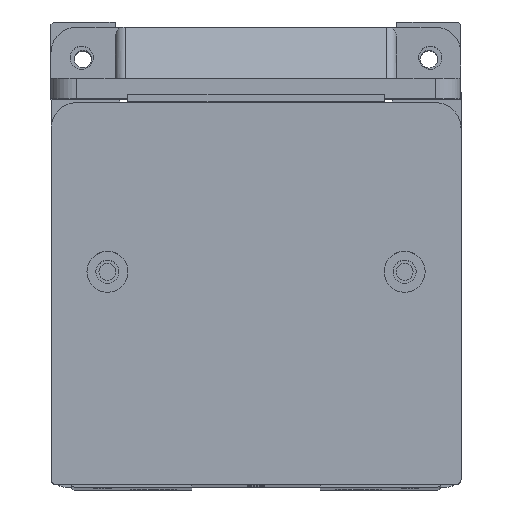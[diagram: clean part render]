
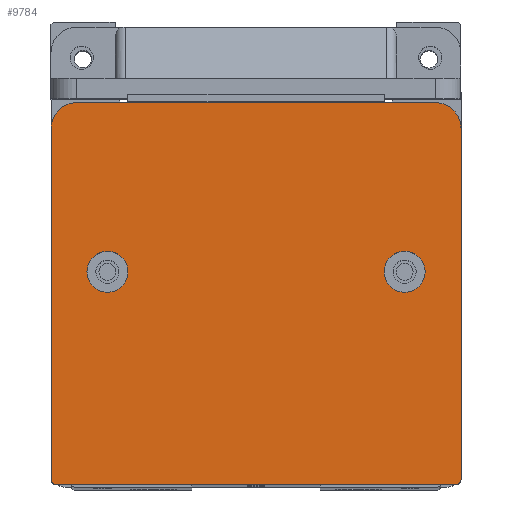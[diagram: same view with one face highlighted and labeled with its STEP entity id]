
A CAD part, top view. The second image highlights one B-rep face of the part: STEP entity #9784.
In plain terms, the highlighted planar face has unit normal (0, 0, 1).
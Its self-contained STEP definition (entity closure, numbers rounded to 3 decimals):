
#202 = DIRECTION ( 'NONE',  ( 1., 0., 0. ) ) ;
#273 = VECTOR ( 'NONE', #23655, 1000. ) ;
#378 = VERTEX_POINT ( 'NONE', #11730 ) ;
#537 = ORIENTED_EDGE ( 'NONE', *, *, #16465, .T. ) ;
#874 = VERTEX_POINT ( 'NONE', #18269 ) ;
#978 = DIRECTION ( 'NONE',  ( -1., 0., 0. ) ) ;
#1021 = CARTESIAN_POINT ( 'NONE',  ( 79., 1., 10. ) ) ;
#1050 = CARTESIAN_POINT ( 'NONE',  ( 5., 74.5, 10. ) ) ;
#1531 = DIRECTION ( 'NONE',  ( 0., 0., 1. ) ) ;
#2071 = CARTESIAN_POINT ( 'NONE',  ( 75., 69.5, 10. ) ) ;
#2266 = CARTESIAN_POINT ( 'NONE',  ( 69., 41.5, 10. ) ) ;
#2363 = CIRCLE ( 'NONE', #18562, 5. ) ;
#2625 = CARTESIAN_POINT ( 'NONE',  ( 15., 41.5, 10. ) ) ;
#2669 = VERTEX_POINT ( 'NONE', #17306 ) ;
#2857 = CIRCLE ( 'NONE', #3142, 1. ) ;
#3014 = AXIS2_PLACEMENT_3D ( 'NONE', #2266, #18698, #7800 ) ;
#3090 = CARTESIAN_POINT ( 'NONE',  ( 73., 41.5, 10. ) ) ;
#3142 = AXIS2_PLACEMENT_3D ( 'NONE', #4678, #15735, #978 ) ;
#3373 = DIRECTION ( 'NONE',  ( 0., -1., 0. ) ) ;
#3679 = LINE ( 'NONE', #4782, #16504 ) ;
#3725 = DIRECTION ( 'NONE',  ( 0., 1., 0. ) ) ;
#4678 = CARTESIAN_POINT ( 'NONE',  ( 1., 1., 10. ) ) ;
#4714 = DIRECTION ( 'NONE',  ( -1., 0., 0. ) ) ;
#4782 = CARTESIAN_POINT ( 'NONE',  ( 0., 74.5, 10. ) ) ;
#4982 = DIRECTION ( 'NONE',  ( 0., 0., 1. ) ) ;
#4997 = CARTESIAN_POINT ( 'NONE',  ( 0., 69.5, 10. ) ) ;
#5136 = LINE ( 'NONE', #11241, #273 ) ;
#5480 = CIRCLE ( 'NONE', #3014, 4. ) ;
#6004 = VECTOR ( 'NONE', #3725, 1000. ) ;
#6382 = VERTEX_POINT ( 'NONE', #4997 ) ;
#6426 = CARTESIAN_POINT ( 'NONE',  ( 75., 74.5, 10. ) ) ;
#6556 = CARTESIAN_POINT ( 'NONE',  ( 0., 1., 10. ) ) ;
#6782 = VERTEX_POINT ( 'NONE', #3090 ) ;
#6829 = DIRECTION ( 'NONE',  ( 1., 0., 0. ) ) ;
#6901 = CARTESIAN_POINT ( 'NONE',  ( 5., 69.5, 10. ) ) ;
#6987 = DIRECTION ( 'NONE',  ( -1., 0., 0. ) ) ;
#7171 = ORIENTED_EDGE ( 'NONE', *, *, #15387, .T. ) ;
#7474 = CIRCLE ( 'NONE', #17683, 4. ) ;
#7662 = PLANE ( 'NONE',  #10172 ) ;
#7800 = DIRECTION ( 'NONE',  ( 1., 0., 0. ) ) ;
#7921 = FACE_OUTER_BOUND ( 'NONE', #13013, .T. ) ;
#8046 = VERTEX_POINT ( 'NONE', #18512 ) ;
#8167 = DIRECTION ( 'NONE',  ( 1., 0., 0. ) ) ;
#8292 = LINE ( 'NONE', #9154, #6004 ) ;
#8557 = AXIS2_PLACEMENT_3D ( 'NONE', #6901, #4982, #6987 ) ;
#8852 = CIRCLE ( 'NONE', #16040, 4. ) ;
#9154 = CARTESIAN_POINT ( 'NONE',  ( 80., 0., 10. ) ) ;
#9784 = ADVANCED_FACE ( 'NONE', ( #18176, #12779, #7921 ), #7662, .F. ) ;
#9906 = ORIENTED_EDGE ( 'NONE', *, *, #15404, .F. ) ;
#9930 = VERTEX_POINT ( 'NONE', #1050 ) ;
#10172 = AXIS2_PLACEMENT_3D ( 'NONE', #21074, #19076, #19155 ) ;
#10653 = ORIENTED_EDGE ( 'NONE', *, *, #21883, .F. ) ;
#10824 = ORIENTED_EDGE ( 'NONE', *, *, #22519, .T. ) ;
#10880 = EDGE_LOOP ( 'NONE', ( #18066, #9906 ) ) ;
#11127 = EDGE_CURVE ( 'NONE', #378, #15688, #2363, .T. ) ;
#11241 = CARTESIAN_POINT ( 'NONE',  ( 0., 0., 10. ) ) ;
#11261 = ORIENTED_EDGE ( 'NONE', *, *, #19678, .T. ) ;
#11552 = CARTESIAN_POINT ( 'NONE',  ( 7., 41.5, 10. ) ) ;
#11730 = CARTESIAN_POINT ( 'NONE',  ( 80., 69.5, 10. ) ) ;
#12151 = DIRECTION ( 'NONE',  ( -1., 0., 0. ) ) ;
#12288 = EDGE_CURVE ( 'NONE', #6782, #2669, #5480, .T. ) ;
#12388 = VERTEX_POINT ( 'NONE', #11552 ) ;
#12395 = LINE ( 'NONE', #19538, #18371 ) ;
#12597 = VERTEX_POINT ( 'NONE', #14844 ) ;
#12779 = FACE_BOUND ( 'NONE', #12868, .T. ) ;
#12868 = EDGE_LOOP ( 'NONE', ( #23456, #10653 ) ) ;
#12988 = DIRECTION ( 'NONE',  ( 0., 0., 1. ) ) ;
#13013 = EDGE_LOOP ( 'NONE', ( #11261, #16407, #10824, #23414, #7171, #17783, #537, #18359 ) ) ;
#13275 = AXIS2_PLACEMENT_3D ( 'NONE', #1021, #15617, #4714 ) ;
#13894 = CARTESIAN_POINT ( 'NONE',  ( 11., 41.5, 10. ) ) ;
#13966 = DIRECTION ( 'NONE',  ( 0., 0., 1. ) ) ;
#14037 = EDGE_CURVE ( 'NONE', #9930, #6382, #20487, .T. ) ;
#14048 = EDGE_CURVE ( 'NONE', #15234, #12388, #17071, .T. ) ;
#14844 = CARTESIAN_POINT ( 'NONE',  ( 1., 0., 10. ) ) ;
#15234 = VERTEX_POINT ( 'NONE', #2625 ) ;
#15387 = EDGE_CURVE ( 'NONE', #874, #378, #8292, .T. ) ;
#15404 = EDGE_CURVE ( 'NONE', #2669, #6782, #8852, .T. ) ;
#15617 = DIRECTION ( 'NONE',  ( 0., 0., 1. ) ) ;
#15688 = VERTEX_POINT ( 'NONE', #6426 ) ;
#15735 = DIRECTION ( 'NONE',  ( 0., 0., 1. ) ) ;
#16040 = AXIS2_PLACEMENT_3D ( 'NONE', #18296, #12988, #202 ) ;
#16381 = VERTEX_POINT ( 'NONE', #6556 ) ;
#16407 = ORIENTED_EDGE ( 'NONE', *, *, #21409, .T. ) ;
#16465 = EDGE_CURVE ( 'NONE', #15688, #9930, #3679, .T. ) ;
#16504 = VECTOR ( 'NONE', #12151, 1000. ) ;
#17071 = CIRCLE ( 'NONE', #22767, 4. ) ;
#17306 = CARTESIAN_POINT ( 'NONE',  ( 65., 41.5, 10. ) ) ;
#17683 = AXIS2_PLACEMENT_3D ( 'NONE', #13894, #13966, #8167 ) ;
#17783 = ORIENTED_EDGE ( 'NONE', *, *, #11127, .T. ) ;
#18066 = ORIENTED_EDGE ( 'NONE', *, *, #12288, .F. ) ;
#18176 = FACE_BOUND ( 'NONE', #10880, .T. ) ;
#18269 = CARTESIAN_POINT ( 'NONE',  ( 80., 1., 10. ) ) ;
#18296 = CARTESIAN_POINT ( 'NONE',  ( 69., 41.5, 10. ) ) ;
#18359 = ORIENTED_EDGE ( 'NONE', *, *, #14037, .T. ) ;
#18371 = VECTOR ( 'NONE', #3373, 1000. ) ;
#18442 = DIRECTION ( 'NONE',  ( 0., 0., 1. ) ) ;
#18512 = CARTESIAN_POINT ( 'NONE',  ( 79., 0., 10. ) ) ;
#18562 = AXIS2_PLACEMENT_3D ( 'NONE', #2071, #18442, #20427 ) ;
#18698 = DIRECTION ( 'NONE',  ( 0., 0., 1. ) ) ;
#19076 = DIRECTION ( 'NONE',  ( 0., 0., -1. ) ) ;
#19155 = DIRECTION ( 'NONE',  ( -1., 0., 0. ) ) ;
#19538 = CARTESIAN_POINT ( 'NONE',  ( 0., 0., 10. ) ) ;
#19678 = EDGE_CURVE ( 'NONE', #6382, #16381, #12395, .T. ) ;
#19707 = CARTESIAN_POINT ( 'NONE',  ( 11., 41.5, 10. ) ) ;
#20427 = DIRECTION ( 'NONE',  ( -1., 0., 0. ) ) ;
#20487 = CIRCLE ( 'NONE', #8557, 5. ) ;
#21074 = CARTESIAN_POINT ( 'NONE',  ( 0., 0., 10. ) ) ;
#21409 = EDGE_CURVE ( 'NONE', #16381, #12597, #2857, .T. ) ;
#21883 = EDGE_CURVE ( 'NONE', #12388, #15234, #7474, .T. ) ;
#21893 = EDGE_CURVE ( 'NONE', #8046, #874, #23416, .T. ) ;
#22519 = EDGE_CURVE ( 'NONE', #12597, #8046, #5136, .T. ) ;
#22767 = AXIS2_PLACEMENT_3D ( 'NONE', #19707, #1531, #6829 ) ;
#23414 = ORIENTED_EDGE ( 'NONE', *, *, #21893, .T. ) ;
#23416 = CIRCLE ( 'NONE', #13275, 1. ) ;
#23456 = ORIENTED_EDGE ( 'NONE', *, *, #14048, .F. ) ;
#23655 = DIRECTION ( 'NONE',  ( 1., 0., 0. ) ) ;
